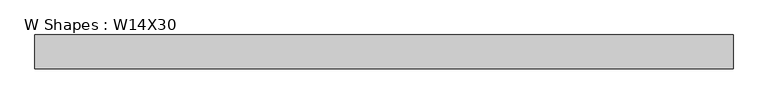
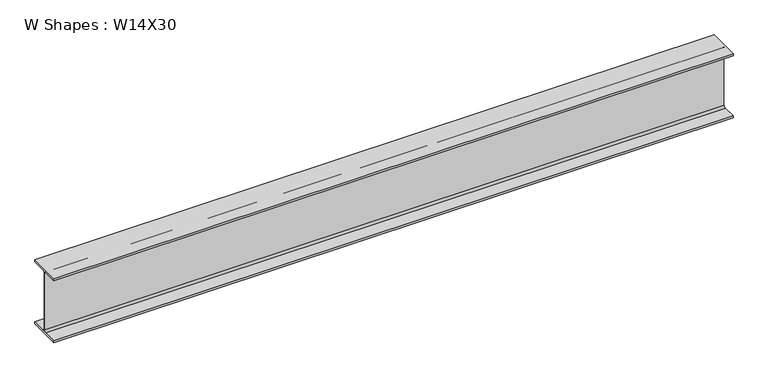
"""IFC4 building model written with IfcOpenShell, lengths in millimetres: beam geometry, W Shapes : W14X30."""

from ifc_helpers import new_model, si_unit, point, frame, frame_2d, origin, place, context, project, spatial, polyline, circle_curve, trimmed, segment, composite_curve, outline, extrude, source, transform, mapped, element, save


def w_shapes_w14x30_8e706a4a(model_context):
    return source(origin(), model_context, "Body", "SweptSolid", [
        extrude(outline(composite_curve([segment(polyline([(85.471, -165.481), (85.471, -175.26), (-85.471, -175.26), (-85.471, -165.481), (-13.589, -165.481)]), True, "CONTINUOUS"), segment(trimmed(circle_curve(frame_2d((-13.589, -155.321)), 10.16), [point((-13.589, -165.481))], [point((-3.429, -155.321))], True, "CARTESIAN"), True, "CONTINUOUS"), segment(polyline([(-3.429, -155.321), (-3.429, 155.321)]), True, "CONTINUOUS"), segment(trimmed(circle_curve(frame_2d((-13.589, 155.321)), 10.16), [point((-3.429, 155.321))], [point((-13.589, 165.481))], True, "CARTESIAN"), True, "CONTINUOUS"), segment(polyline([(-13.589, 165.481), (-85.471, 165.481), (-85.471, 175.26), (85.471, 175.26), (85.471, 165.481), (13.589, 165.481)]), True, "CONTINUOUS"), segment(trimmed(circle_curve(frame_2d((13.589, 155.321)), 10.16), [point((13.589, 165.481))], [point((3.429, 155.321))], True, "CARTESIAN"), True, "CONTINUOUS"), segment(polyline([(3.429, 155.321), (3.429, -155.321)]), True, "CONTINUOUS"), segment(trimmed(circle_curve(frame_2d((13.589, -155.321)), 10.16), [point((3.429, -155.321))], [point((13.589, -165.481))], True, "CARTESIAN"), True, "CONTINUOUS"), segment(polyline([(13.589, -165.481), (85.471, -165.481)]), True, "CONTINUOUS")], self_intersect=False)), frame((-1863.3023799, 0.0, 0.0), z_axis=(1.0, 0.0, 0.0), x_axis=(0.0, 1.0, 0.0)), (0.0, 0.0, 1.0), 3521.1389716),
    ])


if __name__ == "__main__":
    model = new_model("IFC4")
    model_context = context("Model", 3, world=origin())
    ifc_project = project(units=[si_unit("LENGTHUNIT", "METRE", prefix="MILLI")], contexts=[model_context])
    site = spatial("IfcSite", under=ifc_project)
    building = spatial("IfcBuilding", under=site)
    placement = place(None, origin())
    w_shapes_w14x30_shape = w_shapes_w14x30_8e706a4a(model_context)
    element("IfcBeam", 1, ObjectType="W Shapes : W14X30", at=placement, inside=building, context=model_context, shape_type="MappedRepresentation", body=[
        mapped(w_shapes_w14x30_shape, transform((0.0, 0.0, 0.0), x_axis=(1.0, 0.0, 0.0), y_axis=(0.0, 1.0, 0.0), z_axis=(0.0, 0.0, 1.0))),
    ])
    save(model, "model.ifc")
